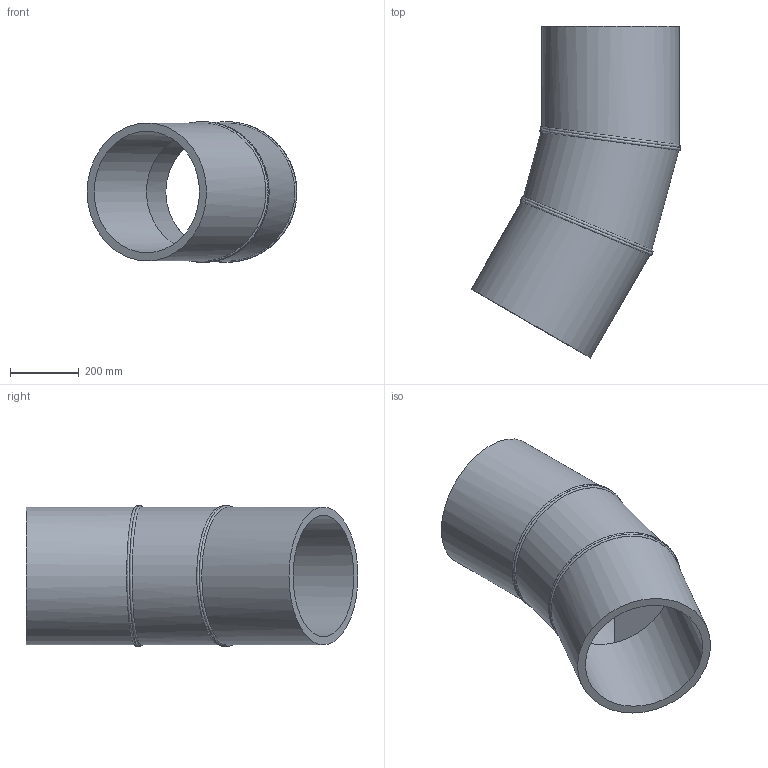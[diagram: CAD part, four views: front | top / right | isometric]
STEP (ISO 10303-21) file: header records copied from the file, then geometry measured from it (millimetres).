
FILE_DESCRIPTION(/* description */ ('Unknown'),/* implementation_level */ '2;1');
FILE_NAME(/* name */ 'Curva 30° a settore DE400 SDR17',/* time_stamp */ '2022-07-26T09:04:31+02:00',/* author */ ('Unknown'),/* organization */ ('Unknown'),/* preprocessor_version */ 'ST-DEVELOPER v18.102',/* originating_system */ 'Solid Edge',/* authorisation */ 'Unknown');
FILE_SCHEMA (('AUTOMOTIVE_DESIGN {1 0 10303 214 3 1 1}'));
Length unit declared in the file: millimetre
Products named in the file (3): Curva 30° a settore DE400 SDR17; Tubo x Gomito 30° DE400 SDR17 - 1; Tubo x Gomito 30° DE400 SDR17 - 2
Assembly tree (3 placements, depth 2):
  Curva 30° a settore DE400 SDR17
    Tubo x Gomito 30° DE400 SDR17 - 1  x2
    Tubo x Gomito 30° DE400 SDR17 - 2
Bounding box: 608.34 x 962.65 x 407.99 mm (x, y, z)
Volume: 25771588.4 mm3; surface area: 2357053.2 mm2
Topology: 3 solids, 3 shells, 24 faces, 51 edges, 33 vertices
Faces by surface type: cylinder 14, plane 6, bspline 4
Full cylindrical faces by diameter (mm): 352.6 x3, 400 x3
Entity records: 2376 total; most frequent: CARTESIAN_POINT 1981, DIRECTION 70, ORIENTED_EDGE 52, AXIS2_PLACEMENT_3D 35, EDGE_LOOP 28, FACE_BOUND 28, EDGE_CURVE 26, VERTEX_POINT 20
